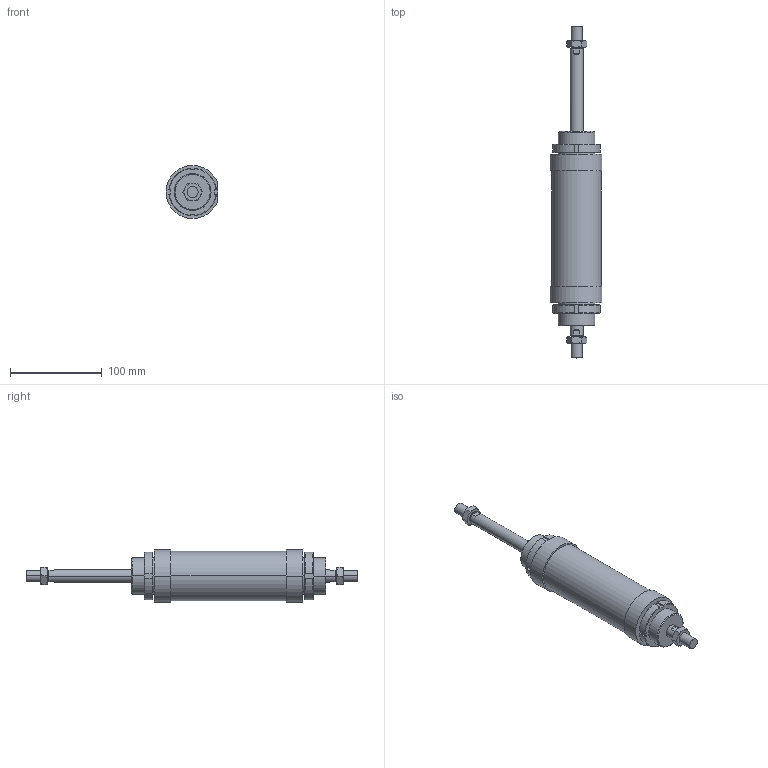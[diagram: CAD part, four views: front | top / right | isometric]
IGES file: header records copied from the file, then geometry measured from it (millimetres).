
Global section: file name: No Iges File Name specified; native system: AutoDesk Inventor R6.0; preprocessor: AutoDesk Inventor Iges Exporter R6.0; author: No Author specified; organization: No Organization specified; date: 20030403.073004; units: millimetre
Bounding box: 56.6 x 362 x 57.85 mm (x, y, z)
Volume: 483154 mm3; surface area: 76709.6 mm2
Topology: 6 solids, 6 shells, 182 faces, 424 edges, 264 vertices
Faces by surface type: plane 66, cone 52, bspline 30, cylinder 28, revolution 6
